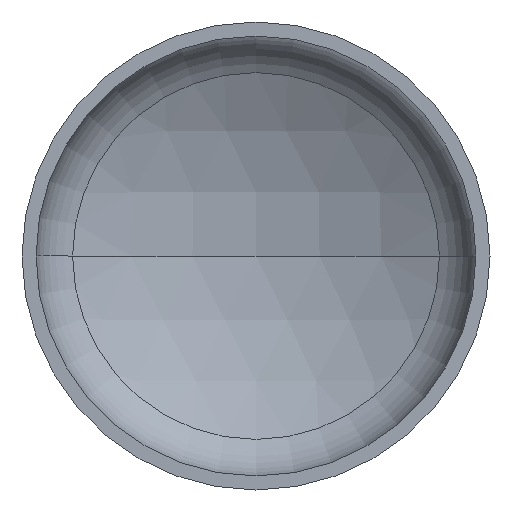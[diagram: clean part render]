
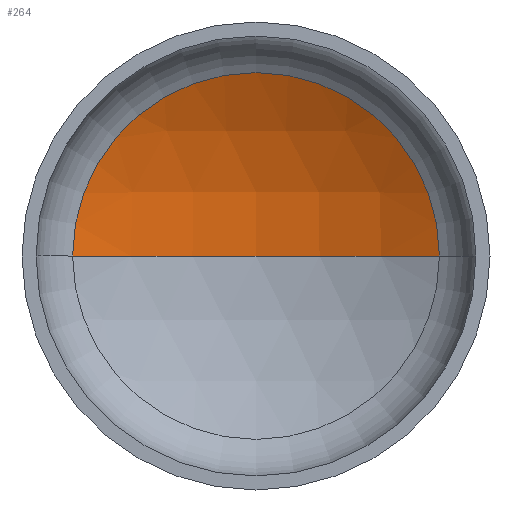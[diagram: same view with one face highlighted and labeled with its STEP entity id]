
A CAD part, front view. The second image highlights one B-rep face of the part: STEP entity #264.
In plain terms, the highlighted spherical face has radius 1280 mm.
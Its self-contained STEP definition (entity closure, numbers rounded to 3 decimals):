
#10 = AXIS2_PLACEMENT_3D ( 'NONE', #196, #369, #134 ) ;
#13 = EDGE_LOOP ( 'NONE', ( #122, #68, #109 ) ) ;
#14 = AXIS2_PLACEMENT_3D ( 'NONE', #172, #146, #324 ) ;
#24 = AXIS2_PLACEMENT_3D ( 'NONE', #181, #113, #115 ) ;
#27 = AXIS2_PLACEMENT_3D ( 'NONE', #229, #388, #217 ) ;
#29 = VERTEX_POINT ( 'NONE', #248 ) ;
#44 = FACE_OUTER_BOUND ( 'NONE', #13, .T. ) ;
#68 = ORIENTED_EDGE ( 'NONE', *, *, #344, .T. ) ;
#78 = SPHERICAL_SURFACE ( 'NONE', #27, 1280. ) ;
#92 = VERTEX_POINT ( 'NONE', #295 ) ;
#109 = ORIENTED_EDGE ( 'NONE', *, *, #327, .T. ) ;
#112 = VERTEX_POINT ( 'NONE', #294 ) ;
#113 = DIRECTION ( 'NONE',  ( 0., -1., 0. ) ) ;
#115 = DIRECTION ( 'NONE',  ( 1., 0., 0. ) ) ;
#122 = ORIENTED_EDGE ( 'NONE', *, *, #349, .F. ) ;
#134 = DIRECTION ( 'NONE',  ( 1., 0., 0. ) ) ;
#146 = DIRECTION ( 'NONE',  ( 0., 0., -1. ) ) ;
#161 = CIRCLE ( 'NONE', #10, 1280. ) ;
#172 = CARTESIAN_POINT ( 'NONE',  ( 0., -752.317, 0. ) ) ;
#181 = CARTESIAN_POINT ( 'NONE',  ( 0., 363.592, 0. ) ) ;
#196 = CARTESIAN_POINT ( 'NONE',  ( 0., -752.317, 0. ) ) ;
#217 = DIRECTION ( 'NONE',  ( -1., 0., 0. ) ) ;
#229 = CARTESIAN_POINT ( 'NONE',  ( 0., -752.317, 0. ) ) ;
#239 = CIRCLE ( 'NONE', #24, 627.014 ) ;
#248 = CARTESIAN_POINT ( 'NONE',  ( 0., 527.683, 0. ) ) ;
#264 = ADVANCED_FACE ( 'NONE', ( #44 ), #78, .F. ) ;
#294 = CARTESIAN_POINT ( 'NONE',  ( -627.014, 363.592, 0. ) ) ;
#295 = CARTESIAN_POINT ( 'NONE',  ( 627.014, 363.592, 0. ) ) ;
#324 = DIRECTION ( 'NONE',  ( -1., 0., 0. ) ) ;
#327 = EDGE_CURVE ( 'NONE', #92, #112, #239, .T. ) ;
#344 = EDGE_CURVE ( 'NONE', #29, #92, #409, .T. ) ;
#349 = EDGE_CURVE ( 'NONE', #29, #112, #161, .T. ) ;
#369 = DIRECTION ( 'NONE',  ( 0., 0., 1. ) ) ;
#388 = DIRECTION ( 'NONE',  ( 0., 0., -1. ) ) ;
#409 = CIRCLE ( 'NONE', #14, 1280. ) ;
